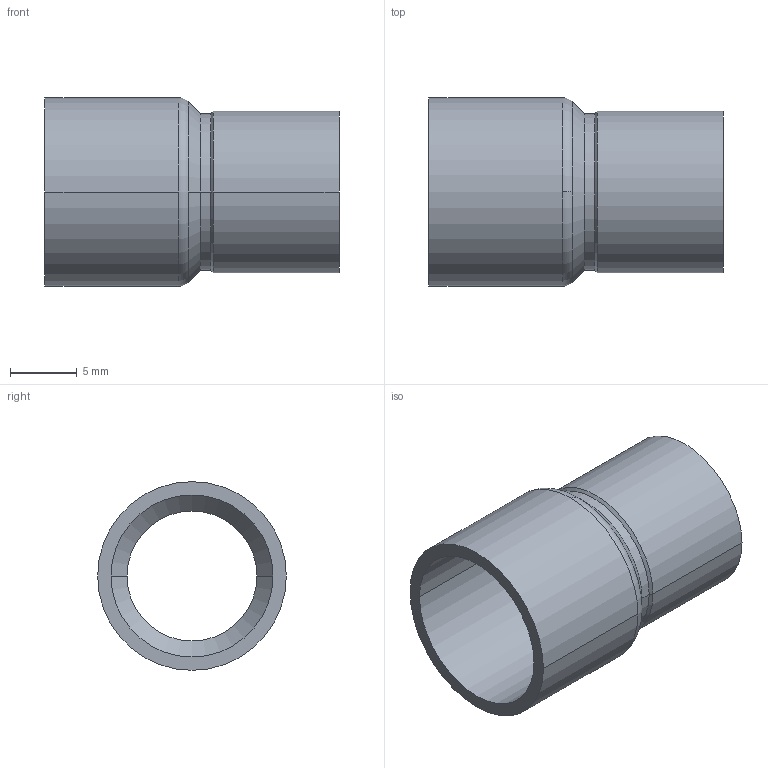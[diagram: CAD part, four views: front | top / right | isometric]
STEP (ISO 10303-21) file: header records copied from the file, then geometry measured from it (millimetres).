
FILE_DESCRIPTION((''),'2;1');
FILE_NAME('G:\Technics\CAD\Bauteile\Serie 15240\152401210.stp','2005-10-21T12:51:01',('boden'),(''),'Autodesk Inventor 8','Autodesk Inventor 8','');
FILE_SCHEMA(('AUTOMOTIVE_DESIGN { 1 0 10303 214 1 1 1 1 }'));
Length unit declared in the file: millimetre
Products named in the file (1): 152401210
Bounding box: 22 x 14.11 x 14.11 mm (x, y, z)
Volume: 853.9 mm3; surface area: 1783.7 mm2
Topology: 1 solids, 1 shells, 24 faces, 52 edges, 30 vertices
Faces by surface type: cylinder 12, cone 8, torus 2, plane 2
Entity records: 683 total; most frequent: DIRECTION 134, CARTESIAN_POINT 107, ORIENTED_EDGE 104, AXIS2_PLACEMENT_3D 57, EDGE_CURVE 52, CIRCLE 32, VERTEX_POINT 30, EDGE_LOOP 26
